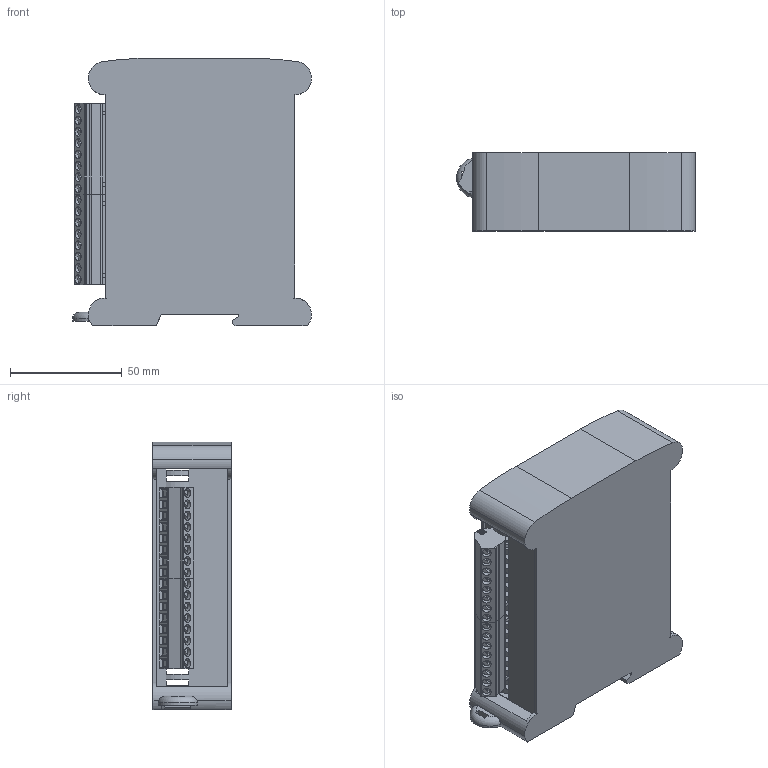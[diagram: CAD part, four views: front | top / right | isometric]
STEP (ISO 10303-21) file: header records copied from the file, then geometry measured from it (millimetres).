
FILE_DESCRIPTION(/* description */ (''),/* implementation_level */ '2;1');
FILE_NAME(/* name */ 'CAL4 -100ig v7.step',/* time_stamp */ '2023-09-01T09:36:16+02:00',/* author */ (''),/* organization */ (''),/* preprocessor_version */ 'ST-DEVELOPER v20',/* originating_system */ 'Autodesk Translation Framework v12.9.0.99',/* authorisation */ '');
FILE_SCHEMA (('AUTOMOTIVE_DESIGN { 1 0 10303 214 3 1 1 }'));
Length unit declared in the file: millimetre
Products named in the file (6): CAL4/100ig; Seguro  CAL4/100IG v6; 1826348 v1; 1826348; 1826348 v1 (1); 1826348_1
Assembly tree (5 placements, depth 3):
  CAL4/100ig
    Seguro  CAL4/100IG v6
    1826348 v1
      1826348
    1826348 v1 (1)
      1826348_1
Bounding box: 107.07 x 35 x 120 mm (x, y, z)
Volume: 330387.9 mm3; surface area: 88955.3 mm2
Topology: 10 solids, 10 shells, 1114 faces, 2980 edges, 1923 vertices
Faces by surface type: plane 813, cylinder 296, sphere 4, torus 1
Full cylindrical faces by diameter (mm): 0.457 x2, 1.4 x16, 2.8 x14, 3.783 x16, 4 x16
Entity records: 35642 total; most frequent: CARTESIAN_POINT 6037, DIRECTION 6013, ORIENTED_EDGE 5928, EDGE_CURVE 2964, LINE 2155, VECTOR 2155, AXIS2_PLACEMENT_3D 1929, VERTEX_POINT 1915
